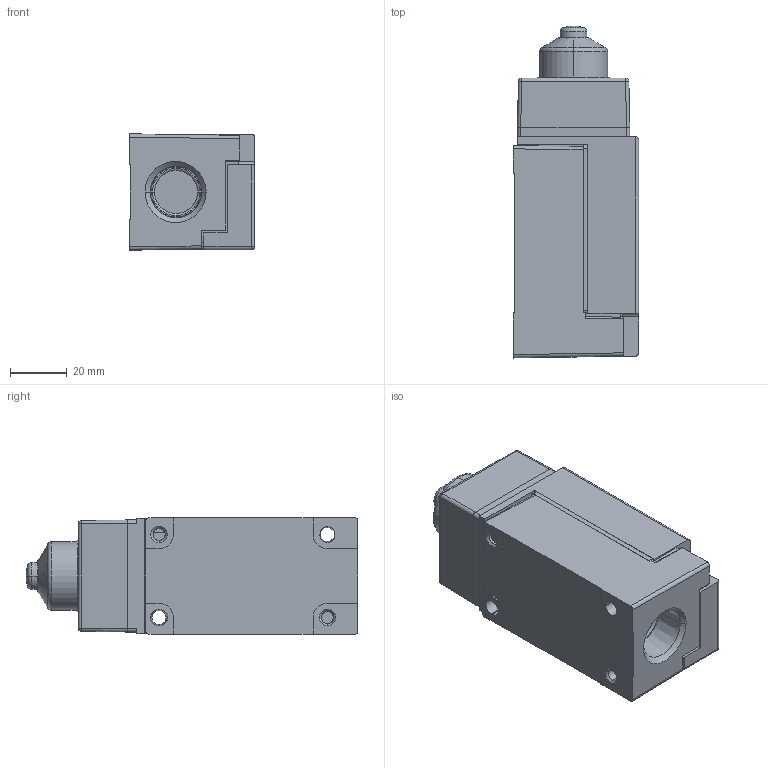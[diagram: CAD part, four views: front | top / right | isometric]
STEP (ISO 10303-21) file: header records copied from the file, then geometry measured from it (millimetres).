
FILE_DESCRIPTION((''),'2;1');
FILE_NAME('LSC1A_SW','2012-12-06T',('E522935'),(''),'PRO/ENGINEER BY PARAMETRIC TECHNOLOGY CORPORATION, 2009460','PRO/ENGINEER BY PARAMETRIC TECHNOLOGY CORPORATION, 2009460','');
FILE_SCHEMA(('CONFIG_CONTROL_DESIGN'));
Length unit declared in the file: inch
Products named in the file (1): LSC1A_SW
Bounding box: 44.32 x 117.35 x 41.15 mm (x, y, z)
Volume: 168521.3 mm3; surface area: 24853.5 mm2
Topology: 1 solids, 1 shells, 423 faces, 1040 edges, 633 vertices
Faces by surface type: plane 239, cylinder 116, cone 25, sphere 19, bspline 16, torus 8
Entity records: 13237 total; most frequent: CARTESIAN_POINT 3175, DIRECTION 2125, ORIENTED_EDGE 2076, EDGE_CURVE 1038, AXIS2_PLACEMENT_3D 753, VERTEX_POINT 633, VECTOR 619, LINE 619
